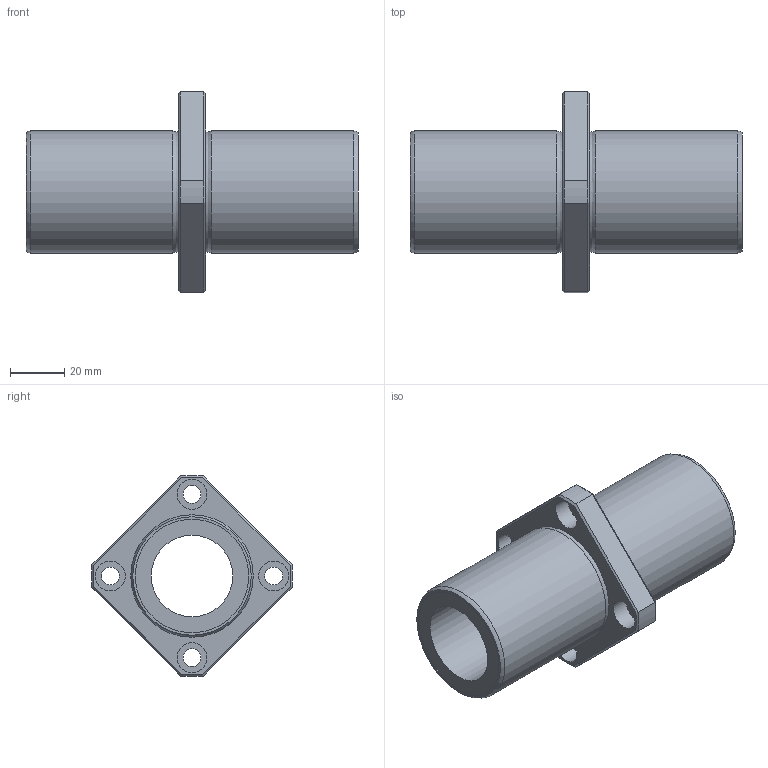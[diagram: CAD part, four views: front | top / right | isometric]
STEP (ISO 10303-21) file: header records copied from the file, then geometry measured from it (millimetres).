
FILE_DESCRIPTION((''),'2;1');
FILE_NAME('D:\製品 (図面)\カタログ用3D\リニアベアリング関連\STEP形式\LFDKC\LFDKC30.stp','2010-06-03T09:38:47',('Tsuchiya'),(''),'Autodesk Inventor 10','Autodesk Inventor 10','');
FILE_SCHEMA(('AUTOMOTIVE_DESIGN { 1 0 10303 214 1 1 1 1 }'));
Length unit declared in the file: millimetre
Products named in the file (1): LFDKC30
Bounding box: 122 x 73.95 x 73.95 mm (x, y, z)
Volume: 121325.5 mm3; surface area: 35405.7 mm2
Topology: 1 solids, 1 shells, 51 faces, 103 edges, 62 vertices
Faces by surface type: plane 22, cylinder 17, cone 8, torus 2, bspline 2
Full cylindrical faces by diameter (mm): 6.6 x4, 11 x4, 30 x1, 41.7 x2, 45 x2
Entity records: 1413 total; most frequent: CARTESIAN_POINT 372, DIRECTION 216, ORIENTED_EDGE 172, AXIS2_PLACEMENT_3D 96, EDGE_CURVE 86, EDGE_LOOP 86, VERTEX_POINT 62, FACE_OUTER_BOUND 51
